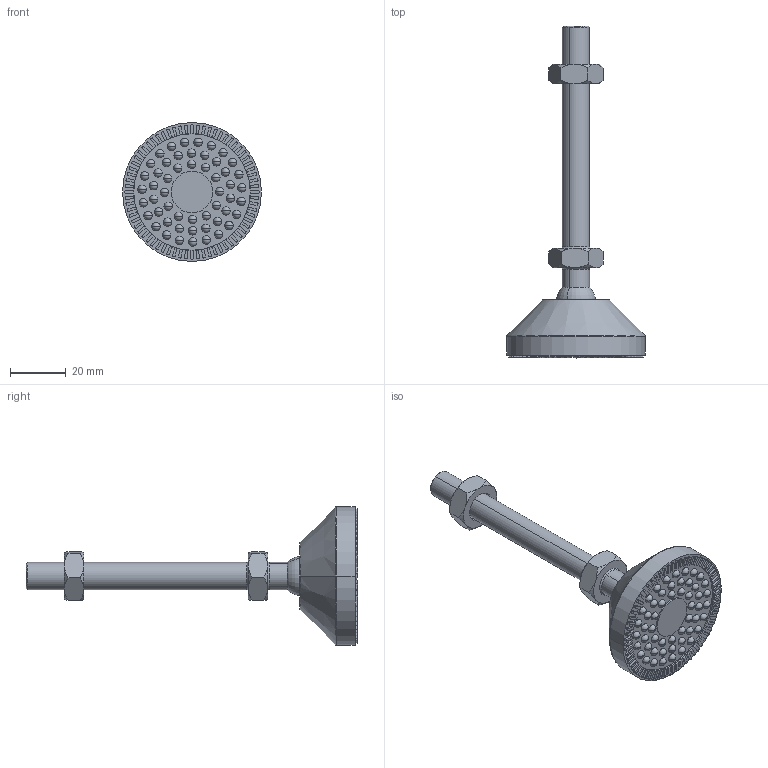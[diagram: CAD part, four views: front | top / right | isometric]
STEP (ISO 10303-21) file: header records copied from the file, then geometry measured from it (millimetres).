
FILE_DESCRIPTION (( 'STEP AP203' ), '1' );
FILE_NAME ('7037.STEP', '2016-04-17T11:28:58', ( '' ), ( '' ), 'SwSTEP 2.0', 'SolidWorks 2014', '' );
FILE_SCHEMA (( 'CONFIG_CONTROL_DESIGN' ));
Length unit declared in the file: millimetre
Products named in the file (5): Ïîäîøâà ïîâîðîòíàÿ 50ìì; Øïèëüêà Ì10 80ìì; Ãàéêà áåç äûðêè Ì10; Ïðîêëàäêà îò ñêîëüæåíèÿ ïîä 50ìì; 7037
Assembly tree (4 placements, depth 2):
  7037
    Ïîäîøâà ïîâîðîòíàÿ 50ìì
    Øïèëüêà Ì10 80ìì
    Ãàéêà áåç äûðêè Ì10
    Ïðîêëàäêà îò ñêîëüæåíèÿ ïîä 50ìì
Bounding box: 50 x 119.49 x 50 mm (x, y, z)
Volume: 38960.7 mm3; surface area: 14898.9 mm2
Topology: 4 solids, 4 shells, 699 faces, 2072 edges, 1333 vertices
Faces by surface type: plane 365, cylinder 188, sphere 106, cone 32, torus 8
Entity records: 22667 total; most frequent: CARTESIAN_POINT 4115, DIRECTION 3928, ORIENTED_EDGE 3720, EDGE_CURVE 1860, AXIS2_PLACEMENT_3D 1406, VERTEX_POINT 1227, LINE 1116, VECTOR 1116
